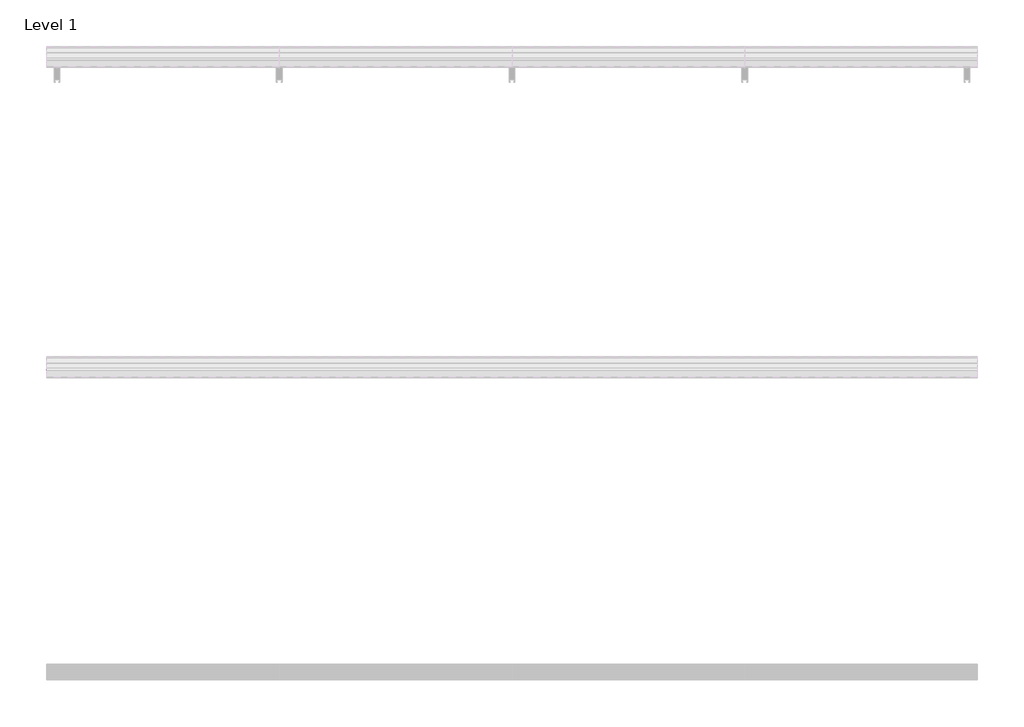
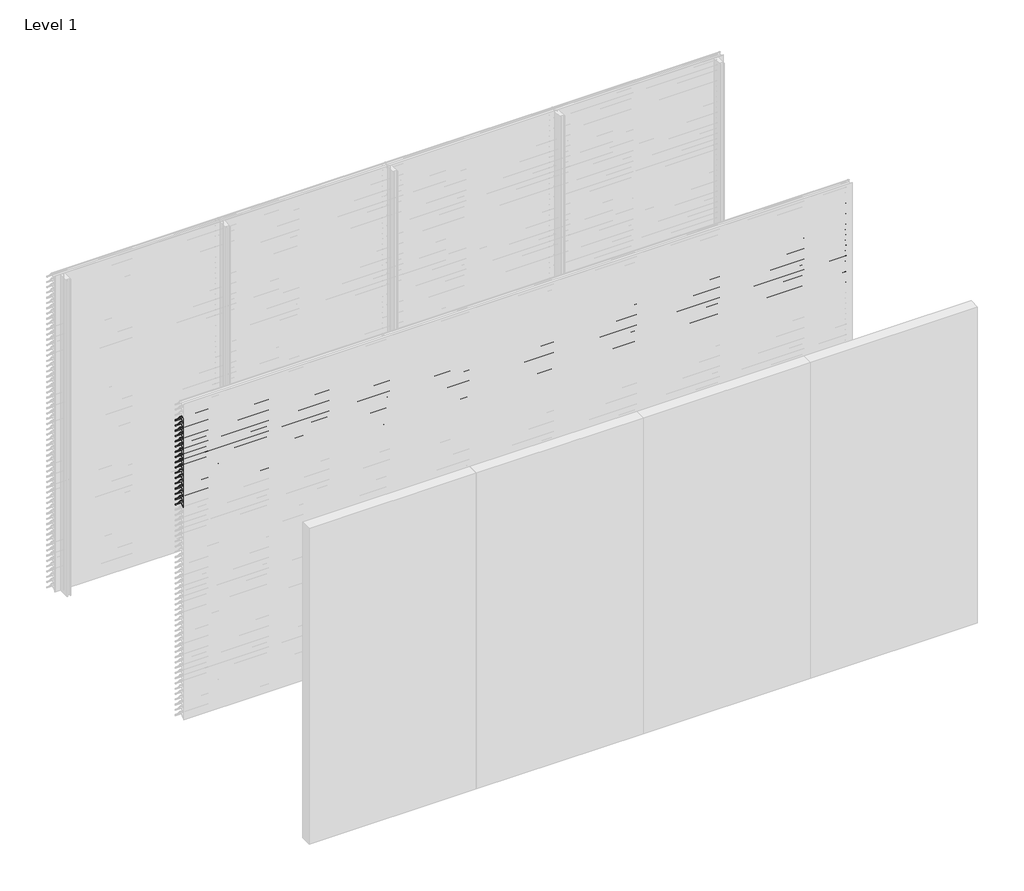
# One storey, part 106 of 173: 17 proxies.
"""IFC4 building model written with IfcOpenShell, lengths in millimetres."""

from ifc_helpers import new_model, si_unit, point, frame, frame_2d, origin, place, context, project, spatial, polyline, circle_curve, trimmed, segment, composite_curve, outline, extrude, element, save

model = new_model("IFC4")

# Units and contexts
model_context = context("Model", 3, world=origin())
ifc_project = project(units=[si_unit("LENGTHUNIT", "METRE", prefix="MILLI")], contexts=[model_context])

# Site, building, storey
site = spatial("IfcSite", under=ifc_project)
building = spatial("IfcBuilding", under=site)
storey = spatial("IfcBuildingStorey", under=building, Name="Level 1", Elevation=0.0)

# Proxies
placement = place(None, origin())
element("IfcBuildingElementProxy", 1, Name="Wall Sweeps", at=placement, inside=storey, context=model_context, shape_type="SweptSolid", body=[
    extrude(outline(composite_curve([segment(polyline([(-19998.0, 2809.1474905), (-19998.0, 2811.6227417)]), True, "CONTINUOUS"), segment(trimmed(circle_curve(frame_2d((-19951.2682172, 2766.2200208)), 65.1557103), [point((-19998.0, 2811.6227417))], [point((-19954.4014323, 2831.3003524))], False, "CARTESIAN"), True, "CONTINUOUS"), segment(polyline([(-19954.4014323, 2831.3003524), (-19934.8315836, 2831.3003524)]), True, "CONTINUOUS"), segment(trimmed(circle_curve(frame_2d((-19732.7329489, 2978.5533172)), 250.0545817), [point((-19934.8315836, 2831.3003524))], [point((-19941.4452143, 2840.8344583))], False, "CARTESIAN"), True, "CONTINUOUS"), segment(trimmed(circle_curve(frame_2d((-19953.2981792, 2835.1737835)), 13.1352966), [point((-19941.4452143, 2840.8344583))], [point((-19953.8171475, 2848.298824))], True, "CARTESIAN"), True, "CONTINUOUS"), segment(polyline([(-19953.8171475, 2848.298824), (-19953.8171475, 2850.0)]), True, "CONTINUOUS"), segment(trimmed(circle_curve(frame_2d((-19953.2981792, 2835.1737835)), 14.8352966), [point((-19953.8171475, 2850.0))], [point((-19939.9637661, 2841.6760487))], False, "CARTESIAN"), True, "CONTINUOUS"), segment(trimmed(circle_curve(frame_2d((-19732.7329489, 2978.5533172)), 248.3545817), [point((-19939.9637661, 2841.6760487))], [point((-19873.8787895, 2774.2059416))], True, "CARTESIAN"), True, "CONTINUOUS"), segment(trimmed(circle_curve(frame_2d((-19883.8147537, 2761.6649442)), 16.0), [point((-19873.8787895, 2774.2059416))], [point((-19867.8648347, 2760.4))], False, "CARTESIAN"), True, "CONTINUOUS"), segment(polyline([(-19867.8648347, 2760.4), (-19869.6712069, 2760.4)]), True, "CONTINUOUS"), segment(trimmed(circle_curve(frame_2d((-19883.8147537, 2761.6649442)), 14.2), [point((-19869.6712069, 2760.4))], [point((-19874.9518628, 2772.7594998))], True, "CARTESIAN"), True, "CONTINUOUS"), segment(trimmed(circle_curve(frame_2d((-19732.7329489, 2978.5533172)), 250.1545817), [point((-19874.9518628, 2772.7594998))], [point((-19933.7064024, 2829.6003524))], False, "CARTESIAN"), True, "CONTINUOUS"), segment(polyline([(-19933.7064024, 2829.6003524), (-19954.3602632, 2829.6003524)]), True, "CONTINUOUS"), segment(trimmed(circle_curve(frame_2d((-19951.2682172, 2766.2200208)), 63.4557103), [point((-19954.3602632, 2829.6003524))], [point((-19998.0, 2809.1474905))], True, "CARTESIAN"), True, "CONTINUOUS")], self_intersect=False)), frame((0.0, 0.0, 0.0), z_axis=(1.0, 0.0, 0.0), x_axis=(0.0, 1.0, 0.0)), (0.0, 0.0, 1.0), 6000.0),
])
element("IfcBuildingElementProxy", 2, Name="Wall Sweeps", at=placement, inside=storey, context=model_context, shape_type="SweptSolid", body=[
    extrude(outline(composite_curve([segment(polyline([(-19998.0, 2759.1474905), (-19998.0, 2761.6227417)]), True, "CONTINUOUS"), segment(trimmed(circle_curve(frame_2d((-19951.2682172, 2716.2200208)), 65.1557103), [point((-19998.0, 2761.6227417))], [point((-19954.4014323, 2781.3003524))], False, "CARTESIAN"), True, "CONTINUOUS"), segment(polyline([(-19954.4014323, 2781.3003524), (-19934.8315836, 2781.3003524)]), True, "CONTINUOUS"), segment(trimmed(circle_curve(frame_2d((-19732.7329489, 2928.5533172)), 250.0545817), [point((-19934.8315836, 2781.3003524))], [point((-19941.4452143, 2790.8344583))], False, "CARTESIAN"), True, "CONTINUOUS"), segment(trimmed(circle_curve(frame_2d((-19953.2981792, 2785.1737835)), 13.1352966), [point((-19941.4452143, 2790.8344583))], [point((-19953.8171475, 2798.298824))], True, "CARTESIAN"), True, "CONTINUOUS"), segment(polyline([(-19953.8171475, 2798.298824), (-19953.8171475, 2800.0)]), True, "CONTINUOUS"), segment(trimmed(circle_curve(frame_2d((-19953.2981792, 2785.1737835)), 14.8352966), [point((-19953.8171475, 2800.0))], [point((-19939.9637661, 2791.6760487))], False, "CARTESIAN"), True, "CONTINUOUS"), segment(trimmed(circle_curve(frame_2d((-19732.7329489, 2928.5533172)), 248.3545817), [point((-19939.9637661, 2791.6760487))], [point((-19873.8787895, 2724.2059416))], True, "CARTESIAN"), True, "CONTINUOUS"), segment(trimmed(circle_curve(frame_2d((-19883.8147537, 2711.6649442)), 16.0), [point((-19873.8787895, 2724.2059416))], [point((-19867.8648347, 2710.4))], False, "CARTESIAN"), True, "CONTINUOUS"), segment(polyline([(-19867.8648347, 2710.4), (-19869.6712069, 2710.4)]), True, "CONTINUOUS"), segment(trimmed(circle_curve(frame_2d((-19883.8147537, 2711.6649442)), 14.2), [point((-19869.6712069, 2710.4))], [point((-19874.9518628, 2722.7594998))], True, "CARTESIAN"), True, "CONTINUOUS"), segment(trimmed(circle_curve(frame_2d((-19732.7329489, 2928.5533172)), 250.1545817), [point((-19874.9518628, 2722.7594998))], [point((-19933.7064024, 2779.6003524))], False, "CARTESIAN"), True, "CONTINUOUS"), segment(polyline([(-19933.7064024, 2779.6003524), (-19954.3602632, 2779.6003524)]), True, "CONTINUOUS"), segment(trimmed(circle_curve(frame_2d((-19951.2682172, 2716.2200208)), 63.4557103), [point((-19954.3602632, 2779.6003524))], [point((-19998.0, 2759.1474905))], True, "CARTESIAN"), True, "CONTINUOUS")], self_intersect=False)), frame((0.0, 0.0, 0.0), z_axis=(1.0, 0.0, 0.0), x_axis=(0.0, 1.0, 0.0)), (0.0, 0.0, 1.0), 6000.0),
])
element("IfcBuildingElementProxy", 3, Name="Wall Sweeps", at=placement, inside=storey, context=model_context, shape_type="SweptSolid", body=[
    extrude(outline(composite_curve([segment(polyline([(-19998.0, 2709.1474905), (-19998.0, 2711.6227417)]), True, "CONTINUOUS"), segment(trimmed(circle_curve(frame_2d((-19951.2682172, 2666.2200208)), 65.1557103), [point((-19998.0, 2711.6227417))], [point((-19954.4014323, 2731.3003524))], False, "CARTESIAN"), True, "CONTINUOUS"), segment(polyline([(-19954.4014323, 2731.3003524), (-19934.8315836, 2731.3003524)]), True, "CONTINUOUS"), segment(trimmed(circle_curve(frame_2d((-19732.7329489, 2878.5533172)), 250.0545817), [point((-19934.8315836, 2731.3003524))], [point((-19941.4452143, 2740.8344583))], False, "CARTESIAN"), True, "CONTINUOUS"), segment(trimmed(circle_curve(frame_2d((-19953.2981792, 2735.1737835)), 13.1352966), [point((-19941.4452143, 2740.8344583))], [point((-19953.8171475, 2748.298824))], True, "CARTESIAN"), True, "CONTINUOUS"), segment(polyline([(-19953.8171475, 2748.298824), (-19953.8171475, 2750.0)]), True, "CONTINUOUS"), segment(trimmed(circle_curve(frame_2d((-19953.2981792, 2735.1737835)), 14.8352966), [point((-19953.8171475, 2750.0))], [point((-19939.9637661, 2741.6760487))], False, "CARTESIAN"), True, "CONTINUOUS"), segment(trimmed(circle_curve(frame_2d((-19732.7329489, 2878.5533172)), 248.3545817), [point((-19939.9637661, 2741.6760487))], [point((-19873.8787895, 2674.2059416))], True, "CARTESIAN"), True, "CONTINUOUS"), segment(trimmed(circle_curve(frame_2d((-19883.8147537, 2661.6649442)), 16.0), [point((-19873.8787895, 2674.2059416))], [point((-19867.8648347, 2660.4))], False, "CARTESIAN"), True, "CONTINUOUS"), segment(polyline([(-19867.8648347, 2660.4), (-19869.6712069, 2660.4)]), True, "CONTINUOUS"), segment(trimmed(circle_curve(frame_2d((-19883.8147537, 2661.6649442)), 14.2), [point((-19869.6712069, 2660.4))], [point((-19874.9518628, 2672.7594998))], True, "CARTESIAN"), True, "CONTINUOUS"), segment(trimmed(circle_curve(frame_2d((-19732.7329489, 2878.5533172)), 250.1545817), [point((-19874.9518628, 2672.7594998))], [point((-19933.7064024, 2729.6003524))], False, "CARTESIAN"), True, "CONTINUOUS"), segment(polyline([(-19933.7064024, 2729.6003524), (-19954.3602632, 2729.6003524)]), True, "CONTINUOUS"), segment(trimmed(circle_curve(frame_2d((-19951.2682172, 2666.2200208)), 63.4557103), [point((-19954.3602632, 2729.6003524))], [point((-19998.0, 2709.1474905))], True, "CARTESIAN"), True, "CONTINUOUS")], self_intersect=False)), frame((0.0, 0.0, 0.0), z_axis=(1.0, 0.0, 0.0), x_axis=(0.0, 1.0, 0.0)), (0.0, 0.0, 1.0), 6000.0),
])
element("IfcBuildingElementProxy", 4, Name="Wall Sweeps", at=placement, inside=storey, context=model_context, shape_type="SweptSolid", body=[
    extrude(outline(composite_curve([segment(polyline([(-19998.0, 2659.1474905), (-19998.0, 2661.6227417)]), True, "CONTINUOUS"), segment(trimmed(circle_curve(frame_2d((-19951.2682172, 2616.2200208)), 65.1557103), [point((-19998.0, 2661.6227417))], [point((-19954.4014323, 2681.3003524))], False, "CARTESIAN"), True, "CONTINUOUS"), segment(polyline([(-19954.4014323, 2681.3003524), (-19934.8315836, 2681.3003524)]), True, "CONTINUOUS"), segment(trimmed(circle_curve(frame_2d((-19732.7329489, 2828.5533172)), 250.0545817), [point((-19934.8315836, 2681.3003524))], [point((-19941.4452143, 2690.8344583))], False, "CARTESIAN"), True, "CONTINUOUS"), segment(trimmed(circle_curve(frame_2d((-19953.2981792, 2685.1737835)), 13.1352966), [point((-19941.4452143, 2690.8344583))], [point((-19953.8171475, 2698.298824))], True, "CARTESIAN"), True, "CONTINUOUS"), segment(polyline([(-19953.8171475, 2698.298824), (-19953.8171475, 2700.0)]), True, "CONTINUOUS"), segment(trimmed(circle_curve(frame_2d((-19953.2981792, 2685.1737835)), 14.8352966), [point((-19953.8171475, 2700.0))], [point((-19939.9637661, 2691.6760487))], False, "CARTESIAN"), True, "CONTINUOUS"), segment(trimmed(circle_curve(frame_2d((-19732.7329489, 2828.5533172)), 248.3545817), [point((-19939.9637661, 2691.6760487))], [point((-19873.8787895, 2624.2059416))], True, "CARTESIAN"), True, "CONTINUOUS"), segment(trimmed(circle_curve(frame_2d((-19883.8147537, 2611.6649442)), 16.0), [point((-19873.8787895, 2624.2059416))], [point((-19867.8648347, 2610.4))], False, "CARTESIAN"), True, "CONTINUOUS"), segment(polyline([(-19867.8648347, 2610.4), (-19869.6712069, 2610.4)]), True, "CONTINUOUS"), segment(trimmed(circle_curve(frame_2d((-19883.8147537, 2611.6649442)), 14.2), [point((-19869.6712069, 2610.4))], [point((-19874.9518628, 2622.7594998))], True, "CARTESIAN"), True, "CONTINUOUS"), segment(trimmed(circle_curve(frame_2d((-19732.7329489, 2828.5533172)), 250.1545817), [point((-19874.9518628, 2622.7594998))], [point((-19933.7064024, 2679.6003524))], False, "CARTESIAN"), True, "CONTINUOUS"), segment(polyline([(-19933.7064024, 2679.6003524), (-19954.3602632, 2679.6003524)]), True, "CONTINUOUS"), segment(trimmed(circle_curve(frame_2d((-19951.2682172, 2616.2200208)), 63.4557103), [point((-19954.3602632, 2679.6003524))], [point((-19998.0, 2659.1474905))], True, "CARTESIAN"), True, "CONTINUOUS")], self_intersect=False)), frame((0.0, 0.0, 0.0), z_axis=(1.0, 0.0, 0.0), x_axis=(0.0, 1.0, 0.0)), (0.0, 0.0, 1.0), 6000.0),
])
element("IfcBuildingElementProxy", 5, Name="Wall Sweeps", at=placement, inside=storey, context=model_context, shape_type="SweptSolid", body=[
    extrude(outline(composite_curve([segment(polyline([(-19998.0, 2609.1474905), (-19998.0, 2611.6227417)]), True, "CONTINUOUS"), segment(trimmed(circle_curve(frame_2d((-19951.2682172, 2566.2200208)), 65.1557103), [point((-19998.0, 2611.6227417))], [point((-19954.4014323, 2631.3003524))], False, "CARTESIAN"), True, "CONTINUOUS"), segment(polyline([(-19954.4014323, 2631.3003524), (-19934.8315836, 2631.3003524)]), True, "CONTINUOUS"), segment(trimmed(circle_curve(frame_2d((-19732.7329489, 2778.5533172)), 250.0545817), [point((-19934.8315836, 2631.3003524))], [point((-19941.4452143, 2640.8344583))], False, "CARTESIAN"), True, "CONTINUOUS"), segment(trimmed(circle_curve(frame_2d((-19953.2981792, 2635.1737835)), 13.1352966), [point((-19941.4452143, 2640.8344583))], [point((-19953.8171475, 2648.298824))], True, "CARTESIAN"), True, "CONTINUOUS"), segment(polyline([(-19953.8171475, 2648.298824), (-19953.8171475, 2650.0)]), True, "CONTINUOUS"), segment(trimmed(circle_curve(frame_2d((-19953.2981792, 2635.1737835)), 14.8352966), [point((-19953.8171475, 2650.0))], [point((-19939.9637661, 2641.6760487))], False, "CARTESIAN"), True, "CONTINUOUS"), segment(trimmed(circle_curve(frame_2d((-19732.7329489, 2778.5533172)), 248.3545817), [point((-19939.9637661, 2641.6760487))], [point((-19873.8787895, 2574.2059416))], True, "CARTESIAN"), True, "CONTINUOUS"), segment(trimmed(circle_curve(frame_2d((-19883.8147537, 2561.6649442)), 16.0), [point((-19873.8787895, 2574.2059416))], [point((-19867.8648347, 2560.4))], False, "CARTESIAN"), True, "CONTINUOUS"), segment(polyline([(-19867.8648347, 2560.4), (-19869.6712069, 2560.4)]), True, "CONTINUOUS"), segment(trimmed(circle_curve(frame_2d((-19883.8147537, 2561.6649442)), 14.2), [point((-19869.6712069, 2560.4))], [point((-19874.9518628, 2572.7594998))], True, "CARTESIAN"), True, "CONTINUOUS"), segment(trimmed(circle_curve(frame_2d((-19732.7329489, 2778.5533172)), 250.1545817), [point((-19874.9518628, 2572.7594998))], [point((-19933.7064024, 2629.6003524))], False, "CARTESIAN"), True, "CONTINUOUS"), segment(polyline([(-19933.7064024, 2629.6003524), (-19954.3602632, 2629.6003524)]), True, "CONTINUOUS"), segment(trimmed(circle_curve(frame_2d((-19951.2682172, 2566.2200208)), 63.4557103), [point((-19954.3602632, 2629.6003524))], [point((-19998.0, 2609.1474905))], True, "CARTESIAN"), True, "CONTINUOUS")], self_intersect=False)), frame((0.0, 0.0, 0.0), z_axis=(1.0, 0.0, 0.0), x_axis=(0.0, 1.0, 0.0)), (0.0, 0.0, 1.0), 6000.0),
])
element("IfcBuildingElementProxy", 6, Name="Wall Sweeps", at=placement, inside=storey, context=model_context, shape_type="SweptSolid", body=[
    extrude(outline(composite_curve([segment(polyline([(-19998.0, 2559.1474905), (-19998.0, 2561.6227417)]), True, "CONTINUOUS"), segment(trimmed(circle_curve(frame_2d((-19951.2682172, 2516.2200208)), 65.1557103), [point((-19998.0, 2561.6227417))], [point((-19954.4014323, 2581.3003524))], False, "CARTESIAN"), True, "CONTINUOUS"), segment(polyline([(-19954.4014323, 2581.3003524), (-19934.8315836, 2581.3003524)]), True, "CONTINUOUS"), segment(trimmed(circle_curve(frame_2d((-19732.7329489, 2728.5533172)), 250.0545817), [point((-19934.8315836, 2581.3003524))], [point((-19941.4452143, 2590.8344583))], False, "CARTESIAN"), True, "CONTINUOUS"), segment(trimmed(circle_curve(frame_2d((-19953.2981792, 2585.1737835)), 13.1352966), [point((-19941.4452143, 2590.8344583))], [point((-19953.8171475, 2598.298824))], True, "CARTESIAN"), True, "CONTINUOUS"), segment(polyline([(-19953.8171475, 2598.298824), (-19953.8171475, 2600.0)]), True, "CONTINUOUS"), segment(trimmed(circle_curve(frame_2d((-19953.2981792, 2585.1737835)), 14.8352966), [point((-19953.8171475, 2600.0))], [point((-19939.9637661, 2591.6760487))], False, "CARTESIAN"), True, "CONTINUOUS"), segment(trimmed(circle_curve(frame_2d((-19732.7329489, 2728.5533172)), 248.3545817), [point((-19939.9637661, 2591.6760487))], [point((-19873.8787895, 2524.2059416))], True, "CARTESIAN"), True, "CONTINUOUS"), segment(trimmed(circle_curve(frame_2d((-19883.8147537, 2511.6649442)), 16.0), [point((-19873.8787895, 2524.2059416))], [point((-19867.8648347, 2510.4))], False, "CARTESIAN"), True, "CONTINUOUS"), segment(polyline([(-19867.8648347, 2510.4), (-19869.6712069, 2510.4)]), True, "CONTINUOUS"), segment(trimmed(circle_curve(frame_2d((-19883.8147537, 2511.6649442)), 14.2), [point((-19869.6712069, 2510.4))], [point((-19874.9518628, 2522.7594998))], True, "CARTESIAN"), True, "CONTINUOUS"), segment(trimmed(circle_curve(frame_2d((-19732.7329489, 2728.5533172)), 250.1545817), [point((-19874.9518628, 2522.7594998))], [point((-19933.7064024, 2579.6003524))], False, "CARTESIAN"), True, "CONTINUOUS"), segment(polyline([(-19933.7064024, 2579.6003524), (-19954.3602632, 2579.6003524)]), True, "CONTINUOUS"), segment(trimmed(circle_curve(frame_2d((-19951.2682172, 2516.2200208)), 63.4557103), [point((-19954.3602632, 2579.6003524))], [point((-19998.0, 2559.1474905))], True, "CARTESIAN"), True, "CONTINUOUS")], self_intersect=False)), frame((0.0, 0.0, 0.0), z_axis=(1.0, 0.0, 0.0), x_axis=(0.0, 1.0, 0.0)), (0.0, 0.0, 1.0), 6000.0),
])
element("IfcBuildingElementProxy", 7, Name="Wall Sweeps", at=placement, inside=storey, context=model_context, shape_type="SweptSolid", body=[
    extrude(outline(composite_curve([segment(polyline([(-19998.0, 2509.1474905), (-19998.0, 2511.6227417)]), True, "CONTINUOUS"), segment(trimmed(circle_curve(frame_2d((-19951.2682172, 2466.2200208)), 65.1557103), [point((-19998.0, 2511.6227417))], [point((-19954.4014323, 2531.3003524))], False, "CARTESIAN"), True, "CONTINUOUS"), segment(polyline([(-19954.4014323, 2531.3003524), (-19934.8315836, 2531.3003524)]), True, "CONTINUOUS"), segment(trimmed(circle_curve(frame_2d((-19732.7329489, 2678.5533172)), 250.0545817), [point((-19934.8315836, 2531.3003524))], [point((-19941.4452143, 2540.8344583))], False, "CARTESIAN"), True, "CONTINUOUS"), segment(trimmed(circle_curve(frame_2d((-19953.2981792, 2535.1737835)), 13.1352966), [point((-19941.4452143, 2540.8344583))], [point((-19953.8171475, 2548.298824))], True, "CARTESIAN"), True, "CONTINUOUS"), segment(polyline([(-19953.8171475, 2548.298824), (-19953.8171475, 2550.0)]), True, "CONTINUOUS"), segment(trimmed(circle_curve(frame_2d((-19953.2981792, 2535.1737835)), 14.8352966), [point((-19953.8171475, 2550.0))], [point((-19939.9637661, 2541.6760487))], False, "CARTESIAN"), True, "CONTINUOUS"), segment(trimmed(circle_curve(frame_2d((-19732.7329489, 2678.5533172)), 248.3545817), [point((-19939.9637661, 2541.6760487))], [point((-19873.8787895, 2474.2059416))], True, "CARTESIAN"), True, "CONTINUOUS"), segment(trimmed(circle_curve(frame_2d((-19883.8147537, 2461.6649442)), 16.0), [point((-19873.8787895, 2474.2059416))], [point((-19867.8648347, 2460.4))], False, "CARTESIAN"), True, "CONTINUOUS"), segment(polyline([(-19867.8648347, 2460.4), (-19869.6712069, 2460.4)]), True, "CONTINUOUS"), segment(trimmed(circle_curve(frame_2d((-19883.8147537, 2461.6649442)), 14.2), [point((-19869.6712069, 2460.4))], [point((-19874.9518628, 2472.7594998))], True, "CARTESIAN"), True, "CONTINUOUS"), segment(trimmed(circle_curve(frame_2d((-19732.7329489, 2678.5533172)), 250.1545817), [point((-19874.9518628, 2472.7594998))], [point((-19933.7064024, 2529.6003524))], False, "CARTESIAN"), True, "CONTINUOUS"), segment(polyline([(-19933.7064024, 2529.6003524), (-19954.3602632, 2529.6003524)]), True, "CONTINUOUS"), segment(trimmed(circle_curve(frame_2d((-19951.2682172, 2466.2200208)), 63.4557103), [point((-19954.3602632, 2529.6003524))], [point((-19998.0, 2509.1474905))], True, "CARTESIAN"), True, "CONTINUOUS")], self_intersect=False)), frame((0.0, 0.0, 0.0), z_axis=(1.0, 0.0, 0.0), x_axis=(0.0, 1.0, 0.0)), (0.0, 0.0, 1.0), 6000.0),
])
element("IfcBuildingElementProxy", 8, Name="Wall Sweeps", at=placement, inside=storey, context=model_context, shape_type="SweptSolid", body=[
    extrude(outline(composite_curve([segment(polyline([(-19998.0, 2459.1474905), (-19998.0, 2461.6227417)]), True, "CONTINUOUS"), segment(trimmed(circle_curve(frame_2d((-19951.2682172, 2416.2200208)), 65.1557103), [point((-19998.0, 2461.6227417))], [point((-19954.4014323, 2481.3003524))], False, "CARTESIAN"), True, "CONTINUOUS"), segment(polyline([(-19954.4014323, 2481.3003524), (-19934.8315836, 2481.3003524)]), True, "CONTINUOUS"), segment(trimmed(circle_curve(frame_2d((-19732.7329489, 2628.5533172)), 250.0545817), [point((-19934.8315836, 2481.3003524))], [point((-19941.4452143, 2490.8344583))], False, "CARTESIAN"), True, "CONTINUOUS"), segment(trimmed(circle_curve(frame_2d((-19953.2981792, 2485.1737835)), 13.1352966), [point((-19941.4452143, 2490.8344583))], [point((-19953.8171475, 2498.298824))], True, "CARTESIAN"), True, "CONTINUOUS"), segment(polyline([(-19953.8171475, 2498.298824), (-19953.8171475, 2500.0)]), True, "CONTINUOUS"), segment(trimmed(circle_curve(frame_2d((-19953.2981792, 2485.1737835)), 14.8352966), [point((-19953.8171475, 2500.0))], [point((-19939.9637661, 2491.6760487))], False, "CARTESIAN"), True, "CONTINUOUS"), segment(trimmed(circle_curve(frame_2d((-19732.7329489, 2628.5533172)), 248.3545817), [point((-19939.9637661, 2491.6760487))], [point((-19873.8787895, 2424.2059416))], True, "CARTESIAN"), True, "CONTINUOUS"), segment(trimmed(circle_curve(frame_2d((-19883.8147537, 2411.6649442)), 16.0), [point((-19873.8787895, 2424.2059416))], [point((-19867.8648347, 2410.4))], False, "CARTESIAN"), True, "CONTINUOUS"), segment(polyline([(-19867.8648347, 2410.4), (-19869.6712069, 2410.4)]), True, "CONTINUOUS"), segment(trimmed(circle_curve(frame_2d((-19883.8147537, 2411.6649442)), 14.2), [point((-19869.6712069, 2410.4))], [point((-19874.9518628, 2422.7594998))], True, "CARTESIAN"), True, "CONTINUOUS"), segment(trimmed(circle_curve(frame_2d((-19732.7329489, 2628.5533172)), 250.1545817), [point((-19874.9518628, 2422.7594998))], [point((-19933.7064024, 2479.6003524))], False, "CARTESIAN"), True, "CONTINUOUS"), segment(polyline([(-19933.7064024, 2479.6003524), (-19954.3602632, 2479.6003524)]), True, "CONTINUOUS"), segment(trimmed(circle_curve(frame_2d((-19951.2682172, 2416.2200208)), 63.4557103), [point((-19954.3602632, 2479.6003524))], [point((-19998.0, 2459.1474905))], True, "CARTESIAN"), True, "CONTINUOUS")], self_intersect=False)), frame((0.0, 0.0, 0.0), z_axis=(1.0, 0.0, 0.0), x_axis=(0.0, 1.0, 0.0)), (0.0, 0.0, 1.0), 6000.0),
])
element("IfcBuildingElementProxy", 9, Name="Wall Sweeps", at=placement, inside=storey, context=model_context, shape_type="SweptSolid", body=[
    extrude(outline(composite_curve([segment(polyline([(-19998.0, 2409.1474905), (-19998.0, 2411.6227417)]), True, "CONTINUOUS"), segment(trimmed(circle_curve(frame_2d((-19951.2682172, 2366.2200208)), 65.1557103), [point((-19998.0, 2411.6227417))], [point((-19954.4014323, 2431.3003524))], False, "CARTESIAN"), True, "CONTINUOUS"), segment(polyline([(-19954.4014323, 2431.3003524), (-19934.8315836, 2431.3003524)]), True, "CONTINUOUS"), segment(trimmed(circle_curve(frame_2d((-19732.7329489, 2578.5533172)), 250.0545817), [point((-19934.8315836, 2431.3003524))], [point((-19941.4452143, 2440.8344583))], False, "CARTESIAN"), True, "CONTINUOUS"), segment(trimmed(circle_curve(frame_2d((-19953.2981792, 2435.1737835)), 13.1352966), [point((-19941.4452143, 2440.8344583))], [point((-19953.8171475, 2448.298824))], True, "CARTESIAN"), True, "CONTINUOUS"), segment(polyline([(-19953.8171475, 2448.298824), (-19953.8171475, 2450.0)]), True, "CONTINUOUS"), segment(trimmed(circle_curve(frame_2d((-19953.2981792, 2435.1737835)), 14.8352966), [point((-19953.8171475, 2450.0))], [point((-19939.9637661, 2441.6760487))], False, "CARTESIAN"), True, "CONTINUOUS"), segment(trimmed(circle_curve(frame_2d((-19732.7329489, 2578.5533172)), 248.3545817), [point((-19939.9637661, 2441.6760487))], [point((-19873.8787895, 2374.2059416))], True, "CARTESIAN"), True, "CONTINUOUS"), segment(trimmed(circle_curve(frame_2d((-19883.8147537, 2361.6649442)), 16.0), [point((-19873.8787895, 2374.2059416))], [point((-19867.8648347, 2360.4))], False, "CARTESIAN"), True, "CONTINUOUS"), segment(polyline([(-19867.8648347, 2360.4), (-19869.6712069, 2360.4)]), True, "CONTINUOUS"), segment(trimmed(circle_curve(frame_2d((-19883.8147537, 2361.6649442)), 14.2), [point((-19869.6712069, 2360.4))], [point((-19874.9518628, 2372.7594998))], True, "CARTESIAN"), True, "CONTINUOUS"), segment(trimmed(circle_curve(frame_2d((-19732.7329489, 2578.5533172)), 250.1545817), [point((-19874.9518628, 2372.7594998))], [point((-19933.7064024, 2429.6003524))], False, "CARTESIAN"), True, "CONTINUOUS"), segment(polyline([(-19933.7064024, 2429.6003524), (-19954.3602632, 2429.6003524)]), True, "CONTINUOUS"), segment(trimmed(circle_curve(frame_2d((-19951.2682172, 2366.2200208)), 63.4557103), [point((-19954.3602632, 2429.6003524))], [point((-19998.0, 2409.1474905))], True, "CARTESIAN"), True, "CONTINUOUS")], self_intersect=False)), frame((0.0, 0.0, 0.0), z_axis=(1.0, 0.0, 0.0), x_axis=(0.0, 1.0, 0.0)), (0.0, 0.0, 1.0), 6000.0),
])
element("IfcBuildingElementProxy", 10, Name="Wall Sweeps", at=placement, inside=storey, context=model_context, shape_type="SweptSolid", body=[
    extrude(outline(composite_curve([segment(polyline([(-19998.0, 2359.1474905), (-19998.0, 2361.6227417)]), True, "CONTINUOUS"), segment(trimmed(circle_curve(frame_2d((-19951.2682172, 2316.2200208)), 65.1557103), [point((-19998.0, 2361.6227417))], [point((-19954.4014323, 2381.3003524))], False, "CARTESIAN"), True, "CONTINUOUS"), segment(polyline([(-19954.4014323, 2381.3003524), (-19934.8315836, 2381.3003524)]), True, "CONTINUOUS"), segment(trimmed(circle_curve(frame_2d((-19732.7329489, 2528.5533172)), 250.0545817), [point((-19934.8315836, 2381.3003524))], [point((-19941.4452143, 2390.8344583))], False, "CARTESIAN"), True, "CONTINUOUS"), segment(trimmed(circle_curve(frame_2d((-19953.2981792, 2385.1737835)), 13.1352966), [point((-19941.4452143, 2390.8344583))], [point((-19953.8171475, 2398.298824))], True, "CARTESIAN"), True, "CONTINUOUS"), segment(polyline([(-19953.8171475, 2398.298824), (-19953.8171475, 2400.0)]), True, "CONTINUOUS"), segment(trimmed(circle_curve(frame_2d((-19953.2981792, 2385.1737835)), 14.8352966), [point((-19953.8171475, 2400.0))], [point((-19939.9637661, 2391.6760487))], False, "CARTESIAN"), True, "CONTINUOUS"), segment(trimmed(circle_curve(frame_2d((-19732.7329489, 2528.5533172)), 248.3545817), [point((-19939.9637661, 2391.6760487))], [point((-19873.8787895, 2324.2059416))], True, "CARTESIAN"), True, "CONTINUOUS"), segment(trimmed(circle_curve(frame_2d((-19883.8147537, 2311.6649442)), 16.0), [point((-19873.8787895, 2324.2059416))], [point((-19867.8648347, 2310.4))], False, "CARTESIAN"), True, "CONTINUOUS"), segment(polyline([(-19867.8648347, 2310.4), (-19869.6712069, 2310.4)]), True, "CONTINUOUS"), segment(trimmed(circle_curve(frame_2d((-19883.8147537, 2311.6649442)), 14.2), [point((-19869.6712069, 2310.4))], [point((-19874.9518628, 2322.7594998))], True, "CARTESIAN"), True, "CONTINUOUS"), segment(trimmed(circle_curve(frame_2d((-19732.7329489, 2528.5533172)), 250.1545817), [point((-19874.9518628, 2322.7594998))], [point((-19933.7064024, 2379.6003524))], False, "CARTESIAN"), True, "CONTINUOUS"), segment(polyline([(-19933.7064024, 2379.6003524), (-19954.3602632, 2379.6003524)]), True, "CONTINUOUS"), segment(trimmed(circle_curve(frame_2d((-19951.2682172, 2316.2200208)), 63.4557103), [point((-19954.3602632, 2379.6003524))], [point((-19998.0, 2359.1474905))], True, "CARTESIAN"), True, "CONTINUOUS")], self_intersect=False)), frame((0.0, 0.0, 0.0), z_axis=(1.0, 0.0, 0.0), x_axis=(0.0, 1.0, 0.0)), (0.0, 0.0, 1.0), 6000.0),
])
element("IfcBuildingElementProxy", 11, Name="Wall Sweeps", at=placement, inside=storey, context=model_context, shape_type="SweptSolid", body=[
    extrude(outline(composite_curve([segment(polyline([(-19998.0, 2309.1474905), (-19998.0, 2311.6227417)]), True, "CONTINUOUS"), segment(trimmed(circle_curve(frame_2d((-19951.2682172, 2266.2200208)), 65.1557103), [point((-19998.0, 2311.6227417))], [point((-19954.4014323, 2331.3003524))], False, "CARTESIAN"), True, "CONTINUOUS"), segment(polyline([(-19954.4014323, 2331.3003524), (-19934.8315836, 2331.3003524)]), True, "CONTINUOUS"), segment(trimmed(circle_curve(frame_2d((-19732.7329489, 2478.5533172)), 250.0545817), [point((-19934.8315836, 2331.3003524))], [point((-19941.4452143, 2340.8344583))], False, "CARTESIAN"), True, "CONTINUOUS"), segment(trimmed(circle_curve(frame_2d((-19953.2981792, 2335.1737835)), 13.1352966), [point((-19941.4452143, 2340.8344583))], [point((-19953.8171475, 2348.298824))], True, "CARTESIAN"), True, "CONTINUOUS"), segment(polyline([(-19953.8171475, 2348.298824), (-19953.8171475, 2350.0)]), True, "CONTINUOUS"), segment(trimmed(circle_curve(frame_2d((-19953.2981792, 2335.1737835)), 14.8352966), [point((-19953.8171475, 2350.0))], [point((-19939.9637661, 2341.6760487))], False, "CARTESIAN"), True, "CONTINUOUS"), segment(trimmed(circle_curve(frame_2d((-19732.7329489, 2478.5533172)), 248.3545817), [point((-19939.9637661, 2341.6760487))], [point((-19873.8787895, 2274.2059416))], True, "CARTESIAN"), True, "CONTINUOUS"), segment(trimmed(circle_curve(frame_2d((-19883.8147537, 2261.6649442)), 16.0), [point((-19873.8787895, 2274.2059416))], [point((-19867.8648347, 2260.4))], False, "CARTESIAN"), True, "CONTINUOUS"), segment(polyline([(-19867.8648347, 2260.4), (-19869.6712069, 2260.4)]), True, "CONTINUOUS"), segment(trimmed(circle_curve(frame_2d((-19883.8147537, 2261.6649442)), 14.2), [point((-19869.6712069, 2260.4))], [point((-19874.9518628, 2272.7594998))], True, "CARTESIAN"), True, "CONTINUOUS"), segment(trimmed(circle_curve(frame_2d((-19732.7329489, 2478.5533172)), 250.1545817), [point((-19874.9518628, 2272.7594998))], [point((-19933.7064024, 2329.6003524))], False, "CARTESIAN"), True, "CONTINUOUS"), segment(polyline([(-19933.7064024, 2329.6003524), (-19954.3602632, 2329.6003524)]), True, "CONTINUOUS"), segment(trimmed(circle_curve(frame_2d((-19951.2682172, 2266.2200208)), 63.4557103), [point((-19954.3602632, 2329.6003524))], [point((-19998.0, 2309.1474905))], True, "CARTESIAN"), True, "CONTINUOUS")], self_intersect=False)), frame((0.0, 0.0, 0.0), z_axis=(1.0, 0.0, 0.0), x_axis=(0.0, 1.0, 0.0)), (0.0, 0.0, 1.0), 6000.0),
])
element("IfcBuildingElementProxy", 12, Name="Wall Sweeps", at=placement, inside=storey, context=model_context, shape_type="SweptSolid", body=[
    extrude(outline(composite_curve([segment(polyline([(-19998.0, 2259.1474905), (-19998.0, 2261.6227417)]), True, "CONTINUOUS"), segment(trimmed(circle_curve(frame_2d((-19951.2682172, 2216.2200208)), 65.1557103), [point((-19998.0, 2261.6227417))], [point((-19954.4014323, 2281.3003524))], False, "CARTESIAN"), True, "CONTINUOUS"), segment(polyline([(-19954.4014323, 2281.3003524), (-19934.8315836, 2281.3003524)]), True, "CONTINUOUS"), segment(trimmed(circle_curve(frame_2d((-19732.7329489, 2428.5533172)), 250.0545817), [point((-19934.8315836, 2281.3003524))], [point((-19941.4452143, 2290.8344583))], False, "CARTESIAN"), True, "CONTINUOUS"), segment(trimmed(circle_curve(frame_2d((-19953.2981792, 2285.1737835)), 13.1352966), [point((-19941.4452143, 2290.8344583))], [point((-19953.8171475, 2298.298824))], True, "CARTESIAN"), True, "CONTINUOUS"), segment(polyline([(-19953.8171475, 2298.298824), (-19953.8171475, 2300.0)]), True, "CONTINUOUS"), segment(trimmed(circle_curve(frame_2d((-19953.2981792, 2285.1737835)), 14.8352966), [point((-19953.8171475, 2300.0))], [point((-19939.9637661, 2291.6760487))], False, "CARTESIAN"), True, "CONTINUOUS"), segment(trimmed(circle_curve(frame_2d((-19732.7329489, 2428.5533172)), 248.3545817), [point((-19939.9637661, 2291.6760487))], [point((-19873.8787895, 2224.2059416))], True, "CARTESIAN"), True, "CONTINUOUS"), segment(trimmed(circle_curve(frame_2d((-19883.8147537, 2211.6649442)), 16.0), [point((-19873.8787895, 2224.2059416))], [point((-19867.8648347, 2210.4))], False, "CARTESIAN"), True, "CONTINUOUS"), segment(polyline([(-19867.8648347, 2210.4), (-19869.6712069, 2210.4)]), True, "CONTINUOUS"), segment(trimmed(circle_curve(frame_2d((-19883.8147537, 2211.6649442)), 14.2), [point((-19869.6712069, 2210.4))], [point((-19874.9518628, 2222.7594998))], True, "CARTESIAN"), True, "CONTINUOUS"), segment(trimmed(circle_curve(frame_2d((-19732.7329489, 2428.5533172)), 250.1545817), [point((-19874.9518628, 2222.7594998))], [point((-19933.7064024, 2279.6003524))], False, "CARTESIAN"), True, "CONTINUOUS"), segment(polyline([(-19933.7064024, 2279.6003524), (-19954.3602632, 2279.6003524)]), True, "CONTINUOUS"), segment(trimmed(circle_curve(frame_2d((-19951.2682172, 2216.2200208)), 63.4557103), [point((-19954.3602632, 2279.6003524))], [point((-19998.0, 2259.1474905))], True, "CARTESIAN"), True, "CONTINUOUS")], self_intersect=False)), frame((0.0, 0.0, 0.0), z_axis=(1.0, 0.0, 0.0), x_axis=(0.0, 1.0, 0.0)), (0.0, 0.0, 1.0), 6000.0),
])
element("IfcBuildingElementProxy", 13, Name="Wall Sweeps", at=placement, inside=storey, context=model_context, shape_type="SweptSolid", body=[
    extrude(outline(composite_curve([segment(polyline([(-19998.0, 2209.1474905), (-19998.0, 2211.6227417)]), True, "CONTINUOUS"), segment(trimmed(circle_curve(frame_2d((-19951.2682172, 2166.2200208)), 65.1557103), [point((-19998.0, 2211.6227417))], [point((-19954.4014323, 2231.3003524))], False, "CARTESIAN"), True, "CONTINUOUS"), segment(polyline([(-19954.4014323, 2231.3003524), (-19934.8315836, 2231.3003524)]), True, "CONTINUOUS"), segment(trimmed(circle_curve(frame_2d((-19732.7329489, 2378.5533172)), 250.0545817), [point((-19934.8315836, 2231.3003524))], [point((-19941.4452143, 2240.8344583))], False, "CARTESIAN"), True, "CONTINUOUS"), segment(trimmed(circle_curve(frame_2d((-19953.2981792, 2235.1737835)), 13.1352966), [point((-19941.4452143, 2240.8344583))], [point((-19953.8171475, 2248.298824))], True, "CARTESIAN"), True, "CONTINUOUS"), segment(polyline([(-19953.8171475, 2248.298824), (-19953.8171475, 2250.0)]), True, "CONTINUOUS"), segment(trimmed(circle_curve(frame_2d((-19953.2981792, 2235.1737835)), 14.8352966), [point((-19953.8171475, 2250.0))], [point((-19939.9637661, 2241.6760487))], False, "CARTESIAN"), True, "CONTINUOUS"), segment(trimmed(circle_curve(frame_2d((-19732.7329489, 2378.5533172)), 248.3545817), [point((-19939.9637661, 2241.6760487))], [point((-19873.8787895, 2174.2059416))], True, "CARTESIAN"), True, "CONTINUOUS"), segment(trimmed(circle_curve(frame_2d((-19883.8147537, 2161.6649442)), 16.0), [point((-19873.8787895, 2174.2059416))], [point((-19867.8648347, 2160.4))], False, "CARTESIAN"), True, "CONTINUOUS"), segment(polyline([(-19867.8648347, 2160.4), (-19869.6712069, 2160.4)]), True, "CONTINUOUS"), segment(trimmed(circle_curve(frame_2d((-19883.8147537, 2161.6649442)), 14.2), [point((-19869.6712069, 2160.4))], [point((-19874.9518628, 2172.7594998))], True, "CARTESIAN"), True, "CONTINUOUS"), segment(trimmed(circle_curve(frame_2d((-19732.7329489, 2378.5533172)), 250.1545817), [point((-19874.9518628, 2172.7594998))], [point((-19933.7064024, 2229.6003524))], False, "CARTESIAN"), True, "CONTINUOUS"), segment(polyline([(-19933.7064024, 2229.6003524), (-19954.3602632, 2229.6003524)]), True, "CONTINUOUS"), segment(trimmed(circle_curve(frame_2d((-19951.2682172, 2166.2200208)), 63.4557103), [point((-19954.3602632, 2229.6003524))], [point((-19998.0, 2209.1474905))], True, "CARTESIAN"), True, "CONTINUOUS")], self_intersect=False)), frame((0.0, 0.0, 0.0), z_axis=(1.0, 0.0, 0.0), x_axis=(0.0, 1.0, 0.0)), (0.0, 0.0, 1.0), 6000.0),
])
element("IfcBuildingElementProxy", 14, Name="Wall Sweeps", at=placement, inside=storey, context=model_context, shape_type="SweptSolid", body=[
    extrude(outline(composite_curve([segment(polyline([(-19998.0, 2159.1474905), (-19998.0, 2161.6227417)]), True, "CONTINUOUS"), segment(trimmed(circle_curve(frame_2d((-19951.2682172, 2116.2200208)), 65.1557103), [point((-19998.0, 2161.6227417))], [point((-19954.4014323, 2181.3003524))], False, "CARTESIAN"), True, "CONTINUOUS"), segment(polyline([(-19954.4014323, 2181.3003524), (-19934.8315836, 2181.3003524)]), True, "CONTINUOUS"), segment(trimmed(circle_curve(frame_2d((-19732.7329489, 2328.5533172)), 250.0545817), [point((-19934.8315836, 2181.3003524))], [point((-19941.4452143, 2190.8344583))], False, "CARTESIAN"), True, "CONTINUOUS"), segment(trimmed(circle_curve(frame_2d((-19953.2981792, 2185.1737835)), 13.1352966), [point((-19941.4452143, 2190.8344583))], [point((-19953.8171475, 2198.298824))], True, "CARTESIAN"), True, "CONTINUOUS"), segment(polyline([(-19953.8171475, 2198.298824), (-19953.8171475, 2200.0)]), True, "CONTINUOUS"), segment(trimmed(circle_curve(frame_2d((-19953.2981792, 2185.1737835)), 14.8352966), [point((-19953.8171475, 2200.0))], [point((-19939.9637661, 2191.6760487))], False, "CARTESIAN"), True, "CONTINUOUS"), segment(trimmed(circle_curve(frame_2d((-19732.7329489, 2328.5533172)), 248.3545817), [point((-19939.9637661, 2191.6760487))], [point((-19873.8787895, 2124.2059416))], True, "CARTESIAN"), True, "CONTINUOUS"), segment(trimmed(circle_curve(frame_2d((-19883.8147537, 2111.6649442)), 16.0), [point((-19873.8787895, 2124.2059416))], [point((-19867.8648347, 2110.4))], False, "CARTESIAN"), True, "CONTINUOUS"), segment(polyline([(-19867.8648347, 2110.4), (-19869.6712069, 2110.4)]), True, "CONTINUOUS"), segment(trimmed(circle_curve(frame_2d((-19883.8147537, 2111.6649442)), 14.2), [point((-19869.6712069, 2110.4))], [point((-19874.9518628, 2122.7594998))], True, "CARTESIAN"), True, "CONTINUOUS"), segment(trimmed(circle_curve(frame_2d((-19732.7329489, 2328.5533172)), 250.1545817), [point((-19874.9518628, 2122.7594998))], [point((-19933.7064024, 2179.6003524))], False, "CARTESIAN"), True, "CONTINUOUS"), segment(polyline([(-19933.7064024, 2179.6003524), (-19954.3602632, 2179.6003524)]), True, "CONTINUOUS"), segment(trimmed(circle_curve(frame_2d((-19951.2682172, 2116.2200208)), 63.4557103), [point((-19954.3602632, 2179.6003524))], [point((-19998.0, 2159.1474905))], True, "CARTESIAN"), True, "CONTINUOUS")], self_intersect=False)), frame((0.0, 0.0, 0.0), z_axis=(1.0, 0.0, 0.0), x_axis=(0.0, 1.0, 0.0)), (0.0, 0.0, 1.0), 6000.0),
])
element("IfcBuildingElementProxy", 15, Name="Wall Sweeps", at=placement, inside=storey, context=model_context, shape_type="SweptSolid", body=[
    extrude(outline(composite_curve([segment(polyline([(-19998.0, 2109.1474905), (-19998.0, 2111.6227417)]), True, "CONTINUOUS"), segment(trimmed(circle_curve(frame_2d((-19951.2682172, 2066.2200208)), 65.1557103), [point((-19998.0, 2111.6227417))], [point((-19954.4014323, 2131.3003524))], False, "CARTESIAN"), True, "CONTINUOUS"), segment(polyline([(-19954.4014323, 2131.3003524), (-19934.8315836, 2131.3003524)]), True, "CONTINUOUS"), segment(trimmed(circle_curve(frame_2d((-19732.7329489, 2278.5533172)), 250.0545817), [point((-19934.8315836, 2131.3003524))], [point((-19941.4452143, 2140.8344583))], False, "CARTESIAN"), True, "CONTINUOUS"), segment(trimmed(circle_curve(frame_2d((-19953.2981792, 2135.1737835)), 13.1352966), [point((-19941.4452143, 2140.8344583))], [point((-19953.8171475, 2148.298824))], True, "CARTESIAN"), True, "CONTINUOUS"), segment(polyline([(-19953.8171475, 2148.298824), (-19953.8171475, 2150.0)]), True, "CONTINUOUS"), segment(trimmed(circle_curve(frame_2d((-19953.2981792, 2135.1737835)), 14.8352966), [point((-19953.8171475, 2150.0))], [point((-19939.9637661, 2141.6760487))], False, "CARTESIAN"), True, "CONTINUOUS"), segment(trimmed(circle_curve(frame_2d((-19732.7329489, 2278.5533172)), 248.3545817), [point((-19939.9637661, 2141.6760487))], [point((-19873.8787895, 2074.2059416))], True, "CARTESIAN"), True, "CONTINUOUS"), segment(trimmed(circle_curve(frame_2d((-19883.8147537, 2061.6649442)), 16.0), [point((-19873.8787895, 2074.2059416))], [point((-19867.8648347, 2060.4))], False, "CARTESIAN"), True, "CONTINUOUS"), segment(polyline([(-19867.8648347, 2060.4), (-19869.6712069, 2060.4)]), True, "CONTINUOUS"), segment(trimmed(circle_curve(frame_2d((-19883.8147537, 2061.6649442)), 14.2), [point((-19869.6712069, 2060.4))], [point((-19874.9518628, 2072.7594998))], True, "CARTESIAN"), True, "CONTINUOUS"), segment(trimmed(circle_curve(frame_2d((-19732.7329489, 2278.5533172)), 250.1545817), [point((-19874.9518628, 2072.7594998))], [point((-19933.7064024, 2129.6003524))], False, "CARTESIAN"), True, "CONTINUOUS"), segment(polyline([(-19933.7064024, 2129.6003524), (-19954.3602632, 2129.6003524)]), True, "CONTINUOUS"), segment(trimmed(circle_curve(frame_2d((-19951.2682172, 2066.2200208)), 63.4557103), [point((-19954.3602632, 2129.6003524))], [point((-19998.0, 2109.1474905))], True, "CARTESIAN"), True, "CONTINUOUS")], self_intersect=False)), frame((0.0, 0.0, 0.0), z_axis=(1.0, 0.0, 0.0), x_axis=(0.0, 1.0, 0.0)), (0.0, 0.0, 1.0), 6000.0),
])
element("IfcBuildingElementProxy", 16, Name="Wall Sweeps", at=placement, inside=storey, context=model_context, shape_type="SweptSolid", body=[
    extrude(outline(composite_curve([segment(polyline([(-19998.0, 2059.1474905), (-19998.0, 2061.6227417)]), True, "CONTINUOUS"), segment(trimmed(circle_curve(frame_2d((-19951.2682172, 2016.2200208)), 65.1557103), [point((-19998.0, 2061.6227417))], [point((-19954.4014323, 2081.3003524))], False, "CARTESIAN"), True, "CONTINUOUS"), segment(polyline([(-19954.4014323, 2081.3003524), (-19934.8315836, 2081.3003524)]), True, "CONTINUOUS"), segment(trimmed(circle_curve(frame_2d((-19732.7329489, 2228.5533172)), 250.0545817), [point((-19934.8315836, 2081.3003524))], [point((-19941.4452143, 2090.8344583))], False, "CARTESIAN"), True, "CONTINUOUS"), segment(trimmed(circle_curve(frame_2d((-19953.2981792, 2085.1737835)), 13.1352966), [point((-19941.4452143, 2090.8344583))], [point((-19953.8171475, 2098.298824))], True, "CARTESIAN"), True, "CONTINUOUS"), segment(polyline([(-19953.8171475, 2098.298824), (-19953.8171475, 2100.0)]), True, "CONTINUOUS"), segment(trimmed(circle_curve(frame_2d((-19953.2981792, 2085.1737835)), 14.8352966), [point((-19953.8171475, 2100.0))], [point((-19939.9637661, 2091.6760487))], False, "CARTESIAN"), True, "CONTINUOUS"), segment(trimmed(circle_curve(frame_2d((-19732.7329489, 2228.5533172)), 248.3545817), [point((-19939.9637661, 2091.6760487))], [point((-19873.8787895, 2024.2059416))], True, "CARTESIAN"), True, "CONTINUOUS"), segment(trimmed(circle_curve(frame_2d((-19883.8147537, 2011.6649442)), 16.0), [point((-19873.8787895, 2024.2059416))], [point((-19867.8648347, 2010.4))], False, "CARTESIAN"), True, "CONTINUOUS"), segment(polyline([(-19867.8648347, 2010.4), (-19869.6712069, 2010.4)]), True, "CONTINUOUS"), segment(trimmed(circle_curve(frame_2d((-19883.8147537, 2011.6649442)), 14.2), [point((-19869.6712069, 2010.4))], [point((-19874.9518628, 2022.7594998))], True, "CARTESIAN"), True, "CONTINUOUS"), segment(trimmed(circle_curve(frame_2d((-19732.7329489, 2228.5533172)), 250.1545817), [point((-19874.9518628, 2022.7594998))], [point((-19933.7064024, 2079.6003524))], False, "CARTESIAN"), True, "CONTINUOUS"), segment(polyline([(-19933.7064024, 2079.6003524), (-19954.3602632, 2079.6003524)]), True, "CONTINUOUS"), segment(trimmed(circle_curve(frame_2d((-19951.2682172, 2016.2200208)), 63.4557103), [point((-19954.3602632, 2079.6003524))], [point((-19998.0, 2059.1474905))], True, "CARTESIAN"), True, "CONTINUOUS")], self_intersect=False)), frame((0.0, 0.0, 0.0), z_axis=(1.0, 0.0, 0.0), x_axis=(0.0, 1.0, 0.0)), (0.0, 0.0, 1.0), 6000.0),
])
element("IfcBuildingElementProxy", 17, Name="Wall Sweeps", at=placement, inside=storey, context=model_context, shape_type="SweptSolid", body=[
    extrude(outline(composite_curve([segment(polyline([(-19998.0, 2009.1474905), (-19998.0, 2011.6227417)]), True, "CONTINUOUS"), segment(trimmed(circle_curve(frame_2d((-19951.2682172, 1966.2200208)), 65.1557103), [point((-19998.0, 2011.6227417))], [point((-19954.4014323, 2031.3003524))], False, "CARTESIAN"), True, "CONTINUOUS"), segment(polyline([(-19954.4014323, 2031.3003524), (-19934.8315836, 2031.3003524)]), True, "CONTINUOUS"), segment(trimmed(circle_curve(frame_2d((-19732.7329489, 2178.5533172)), 250.0545817), [point((-19934.8315836, 2031.3003524))], [point((-19941.4452143, 2040.8344583))], False, "CARTESIAN"), True, "CONTINUOUS"), segment(trimmed(circle_curve(frame_2d((-19953.2981792, 2035.1737835)), 13.1352966), [point((-19941.4452143, 2040.8344583))], [point((-19953.8171475, 2048.298824))], True, "CARTESIAN"), True, "CONTINUOUS"), segment(polyline([(-19953.8171475, 2048.298824), (-19953.8171475, 2050.0)]), True, "CONTINUOUS"), segment(trimmed(circle_curve(frame_2d((-19953.2981792, 2035.1737835)), 14.8352966), [point((-19953.8171475, 2050.0))], [point((-19939.9637661, 2041.6760487))], False, "CARTESIAN"), True, "CONTINUOUS"), segment(trimmed(circle_curve(frame_2d((-19732.7329489, 2178.5533172)), 248.3545817), [point((-19939.9637661, 2041.6760487))], [point((-19873.8787895, 1974.2059416))], True, "CARTESIAN"), True, "CONTINUOUS"), segment(trimmed(circle_curve(frame_2d((-19883.8147537, 1961.6649442)), 16.0), [point((-19873.8787895, 1974.2059416))], [point((-19867.8648347, 1960.4))], False, "CARTESIAN"), True, "CONTINUOUS"), segment(polyline([(-19867.8648347, 1960.4), (-19869.6712069, 1960.4)]), True, "CONTINUOUS"), segment(trimmed(circle_curve(frame_2d((-19883.8147537, 1961.6649442)), 14.2), [point((-19869.6712069, 1960.4))], [point((-19874.9518628, 1972.7594998))], True, "CARTESIAN"), True, "CONTINUOUS"), segment(trimmed(circle_curve(frame_2d((-19732.7329489, 2178.5533172)), 250.1545817), [point((-19874.9518628, 1972.7594998))], [point((-19933.7064024, 2029.6003524))], False, "CARTESIAN"), True, "CONTINUOUS"), segment(polyline([(-19933.7064024, 2029.6003524), (-19954.3602632, 2029.6003524)]), True, "CONTINUOUS"), segment(trimmed(circle_curve(frame_2d((-19951.2682172, 1966.2200208)), 63.4557103), [point((-19954.3602632, 2029.6003524))], [point((-19998.0, 2009.1474905))], True, "CARTESIAN"), True, "CONTINUOUS")], self_intersect=False)), frame((0.0, 0.0, 0.0), z_axis=(1.0, 0.0, 0.0), x_axis=(0.0, 1.0, 0.0)), (0.0, 0.0, 1.0), 6000.0),
])

save(model, "model.ifc")
